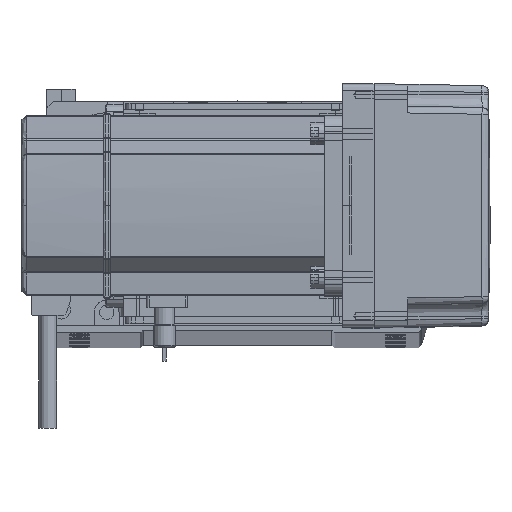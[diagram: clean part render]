
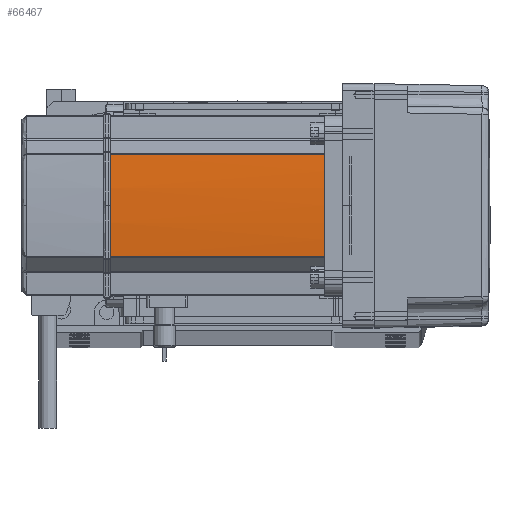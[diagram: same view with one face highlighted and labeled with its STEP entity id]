
A CAD part, top view. The second image highlights one B-rep face of the part: STEP entity #66467.
In plain terms, the highlighted cylindrical face has radius 270 mm (diameter 540 mm), a partial arc.
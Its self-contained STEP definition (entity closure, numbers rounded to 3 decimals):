
#112 = CARTESIAN_POINT ( 'NONE',  ( 230., 0., 0. ) ) ;
#1634 = DIRECTION ( 'NONE',  ( 1., 0., 0. ) ) ;
#1688 = CARTESIAN_POINT ( 'NONE',  ( 230., 0., 134. ) ) ;
#4940 = EDGE_CURVE ( 'NONE', #47448, #18849, #57371, .T. ) ;
#6539 = AXIS2_PLACEMENT_3D ( 'NONE', #112, #36765, #52814 ) ;
#8910 = ORIENTED_EDGE ( 'NONE', *, *, #63194, .T. ) ;
#9378 = DIRECTION ( 'NONE',  ( 0., 0., -1. ) ) ;
#11949 = CARTESIAN_POINT ( 'NONE',  ( 230., 0., 39. ) ) ;
#12107 = ORIENTED_EDGE ( 'NONE', *, *, #65226, .T. ) ;
#12919 = FACE_OUTER_BOUND ( 'NONE', #65591, .T. ) ;
#14210 = VERTEX_POINT ( 'NONE', #22276 ) ;
#16368 = CIRCLE ( 'NONE', #53839, 270. ) ;
#17798 = EDGE_CURVE ( 'NONE', #47448, #64257, #38927, .T. ) ;
#18434 = DIRECTION ( 'NONE',  ( 1., 0., 0. ) ) ;
#18849 = VERTEX_POINT ( 'NONE', #29428 ) ;
#21521 = ORIENTED_EDGE ( 'NONE', *, *, #62878, .T. ) ;
#22276 = CARTESIAN_POINT ( 'NONE',  ( -40., 0., 134. ) ) ;
#23594 = VERTEX_POINT ( 'NONE', #50577 ) ;
#27968 = CYLINDRICAL_SURFACE ( 'NONE', #6539, 270. ) ;
#29428 = CARTESIAN_POINT ( 'NONE',  ( -39.042, -22.724, 134. ) ) ;
#30628 = CARTESIAN_POINT ( 'NONE',  ( -39.042, 22.724, 0. ) ) ;
#32283 = AXIS2_PLACEMENT_3D ( 'NONE', #54771, #39225, #1634 ) ;
#32855 = AXIS2_PLACEMENT_3D ( 'NONE', #11949, #37893, #53924 ) ;
#33143 = CARTESIAN_POINT ( 'NONE',  ( -39.042, -22.724, 0. ) ) ;
#35926 = ORIENTED_EDGE ( 'NONE', *, *, #4940, .T. ) ;
#36765 = DIRECTION ( 'NONE',  ( 0., 0., 1. ) ) ;
#37591 = LINE ( 'NONE', #30628, #68271 ) ;
#37893 = DIRECTION ( 'NONE',  ( 0., 0., -1. ) ) ;
#38531 = CARTESIAN_POINT ( 'NONE',  ( -39.042, 22.724, 39. ) ) ;
#38927 = CIRCLE ( 'NONE', #32855, 270. ) ;
#39225 = DIRECTION ( 'NONE',  ( 0., 0., -1. ) ) ;
#41143 = CARTESIAN_POINT ( 'NONE',  ( -39.042, -22.724, 39. ) ) ;
#43280 = VECTOR ( 'NONE', #65205, 1000. ) ;
#47448 = VERTEX_POINT ( 'NONE', #41143 ) ;
#50577 = CARTESIAN_POINT ( 'NONE',  ( -39.042, 22.724, 134. ) ) ;
#52814 = DIRECTION ( 'NONE',  ( 1., 0., 0. ) ) ;
#53839 = AXIS2_PLACEMENT_3D ( 'NONE', #1688, #60159, #18434 ) ;
#53924 = DIRECTION ( 'NONE',  ( 1., 0., 0. ) ) ;
#54771 = CARTESIAN_POINT ( 'NONE',  ( 230., 0., 134. ) ) ;
#57371 = LINE ( 'NONE', #33143, #43280 ) ;
#58519 = ORIENTED_EDGE ( 'NONE', *, *, #17798, .F. ) ;
#60159 = DIRECTION ( 'NONE',  ( 0., 0., -1. ) ) ;
#62878 = EDGE_CURVE ( 'NONE', #23594, #64257, #37591, .T. ) ;
#63194 = EDGE_CURVE ( 'NONE', #18849, #14210, #64124, .T. ) ;
#64124 = CIRCLE ( 'NONE', #32283, 270. ) ;
#64257 = VERTEX_POINT ( 'NONE', #38531 ) ;
#65205 = DIRECTION ( 'NONE',  ( 0., 0., 1. ) ) ;
#65226 = EDGE_CURVE ( 'NONE', #14210, #23594, #16368, .T. ) ;
#65591 = EDGE_LOOP ( 'NONE', ( #8910, #12107, #21521, #58519, #35926 ) ) ;
#66467 = ADVANCED_FACE ( 'NONE', ( #12919 ), #27968, .T. ) ;
#68271 = VECTOR ( 'NONE', #9378, 1000. ) ;
